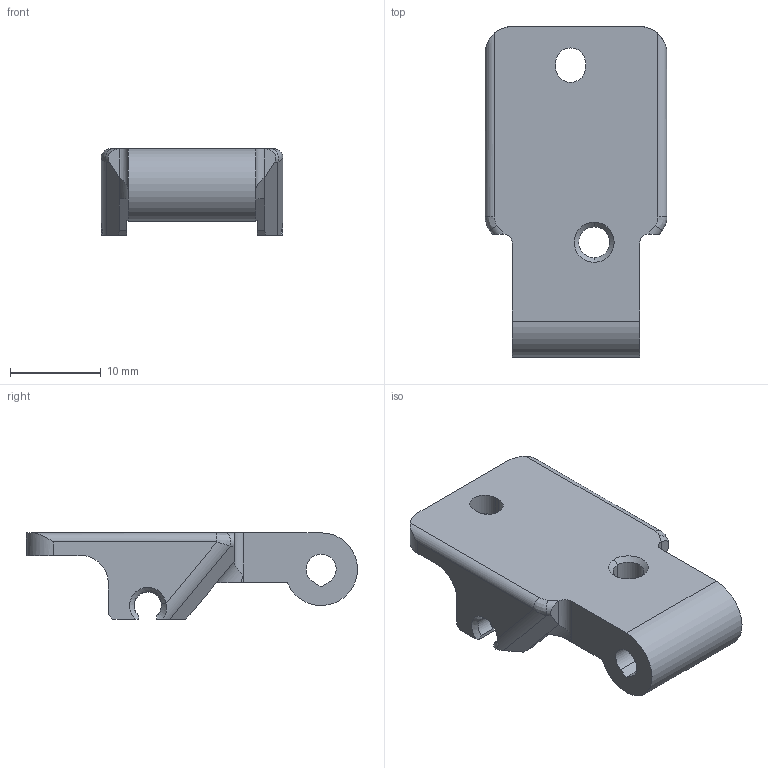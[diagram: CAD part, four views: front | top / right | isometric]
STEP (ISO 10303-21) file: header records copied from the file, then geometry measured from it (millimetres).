
FILE_DESCRIPTION((''),'2;1');
FILE_NAME('0006_6_HHH_1_1_OOO_JJJ','2025-04-16T16:48:27',('Mayn'),(''),'CREO PARAMETRIC BY PTC INC, 2024063','CREO PARAMETRIC BY PTC INC, 2024063','');
FILE_SCHEMA(('CONFIG_CONTROL_DESIGN'));
Length unit declared in the file: millimetre
Products named in the file (1): 0006_6_HHH_1_1_OOO_JJJ
Bounding box: 20 x 36.42 x 9.5 mm (x, y, z)
Volume: 2691.4 mm3; surface area: 2221.2 mm2
Topology: 1 solids, 1 shells, 75 faces, 205 edges, 132 vertices
Faces by surface type: plane 37, cylinder 26, cone 8, bspline 4
Entity records: 2683 total; most frequent: CARTESIAN_POINT 786, ORIENTED_EDGE 410, DIRECTION 353, EDGE_CURVE 205, VERTEX_POINT 132, VECTOR 119, LINE 119, AXIS2_PLACEMENT_3D 117
